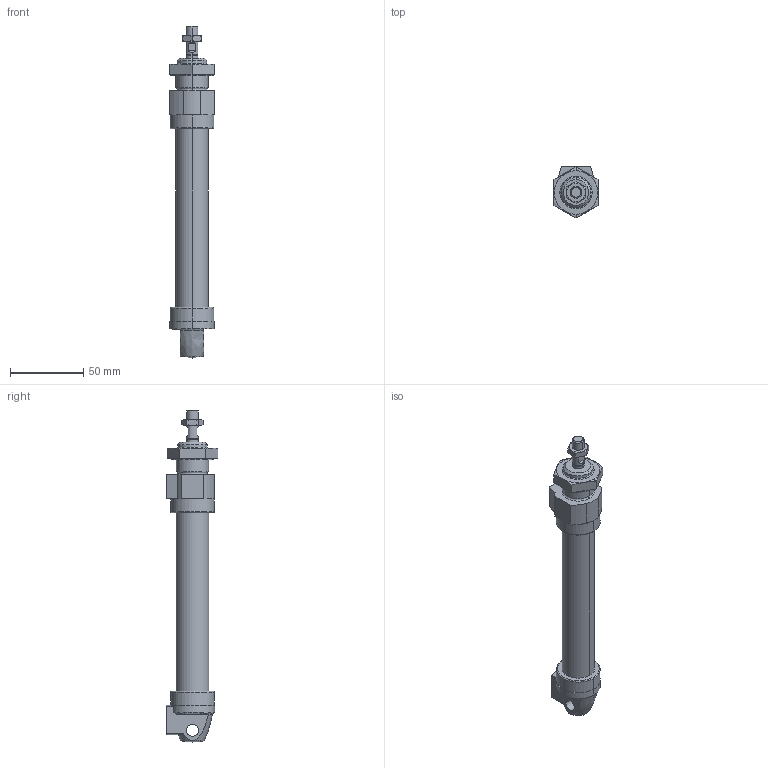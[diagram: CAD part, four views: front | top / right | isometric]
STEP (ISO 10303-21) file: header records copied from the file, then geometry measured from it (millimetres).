
FILE_DESCRIPTION((''),'2;1');
FILE_NAME('1322012000_ASM','2017-09-14T',('hug2hc'),(''),'CREO PARAMETRIC BY PTC INC, 2016260','CREO PARAMETRIC BY PTC INC, 2016260','');
FILE_SCHEMA(('CONFIG_CONTROL_DESIGN'));
Length unit declared in the file: millimetre
Products named in the file (5): 1322012000-A; 1322012000-C; 1322012000-B; 3330320000; 1322012000_ASM
Assembly tree (4 placements, depth 2):
  1322012000_ASM
    1322012000-A
    1322012000-C
    1322012000-B
    3330320000
Bounding box: 30.06 x 35.32 x 226 mm (x, y, z)
Volume: 63887.6 mm3; surface area: 36792.4 mm2
Topology: 4 solids, 4 shells, 125 faces, 280 edges, 173 vertices
Faces by surface type: plane 47, cylinder 41, cone 24, torus 9, bspline 2, sphere 2
Entity records: 3898 total; most frequent: CARTESIAN_POINT 949, DIRECTION 631, ORIENTED_EDGE 556, EDGE_CURVE 278, AXIS2_PLACEMENT_3D 258, VERTEX_POINT 173, EDGE_LOOP 143, CIRCLE 126
